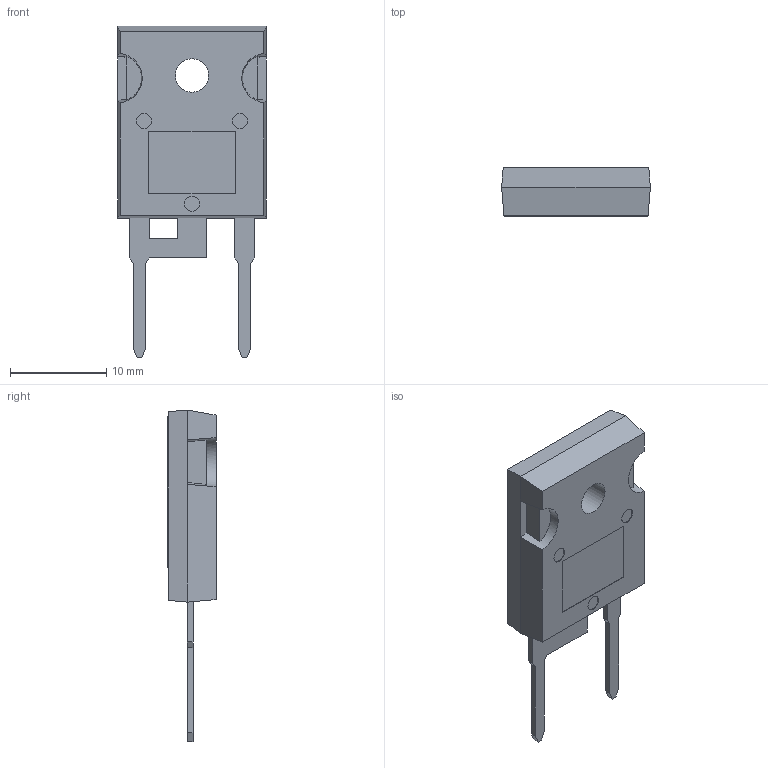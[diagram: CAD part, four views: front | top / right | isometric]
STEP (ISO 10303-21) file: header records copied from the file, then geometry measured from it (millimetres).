
FILE_DESCRIPTION(/* description */ ('Unknown'),/* implementation_level */ '2;1');
FILE_NAME(/* name */ 'TO-247AD-2LM',/* time_stamp */ '2023-08-31T13:21:53+08:00',/* author */ ('Unknown'),/* organization */ ('Unknown'),/* preprocessor_version */ 'ST-DEVELOPER v18.104',/* originating_system */ 'Solid Edge',/* authorisation */ 'Unknown');
FILE_SCHEMA (('AUTOMOTIVE_DESIGN {1 0 10303 214 3 1 1}'));
Length unit declared in the file: millimetre
Products named in the file (1): TO-247AD-2LM
Bounding box: 15.5 x 5.01 x 34.56 mm (x, y, z)
Volume: 1460 mm3; surface area: 1172.2 mm2
Topology: 3 solids, 3 shells, 74 faces, 179 edges, 117 vertices
Faces by surface type: plane 65, cylinder 7, cone 2
Full cylindrical faces by diameter (mm): 1.57 x3, 3.47 x1, 4.97 x1
Entity records: 2647 total; most frequent: CARTESIAN_POINT 388, ORIENTED_EDGE 346, DIRECTION 337, EDGE_CURVE 173, LINE 143, VECTOR 143, VERTEX_POINT 116, AXIS2_PLACEMENT_3D 97
